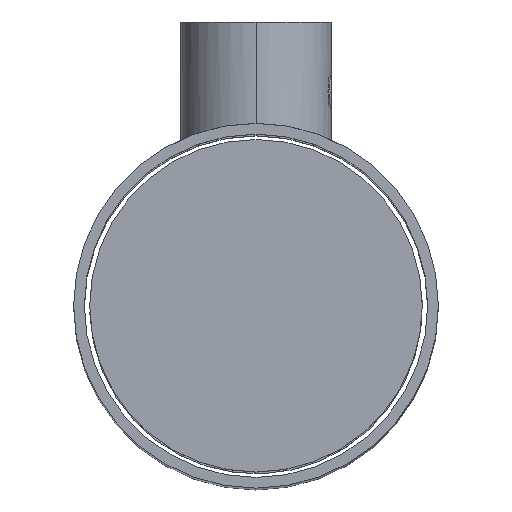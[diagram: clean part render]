
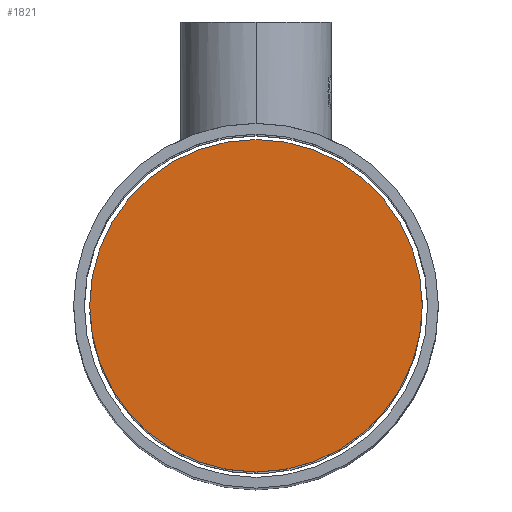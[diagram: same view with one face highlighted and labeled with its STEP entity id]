
A CAD part, top view. The second image highlights one B-rep face of the part: STEP entity #1821.
In plain terms, the highlighted planar face has unit normal (0, 0, 1).
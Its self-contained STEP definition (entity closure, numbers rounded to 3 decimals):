
#143 = CARTESIAN_POINT ( 'NONE',  ( 15.5, 0., 49.51 ) ) ;
#323 = ORIENTED_EDGE ( 'NONE', *, *, #1134, .T. ) ;
#486 = AXIS2_PLACEMENT_3D ( 'NONE', #1926, #2501, #2514 ) ;
#765 = PLANE ( 'NONE',  #486 ) ;
#791 = CARTESIAN_POINT ( 'NONE',  ( -15.5, 0., 49.51 ) ) ;
#881 = EDGE_LOOP ( 'NONE', ( #2309, #323 ) ) ;
#1134 = EDGE_CURVE ( 'NONE', #3296, #3477, #3036, .T. ) ;
#1350 = FACE_OUTER_BOUND ( 'NONE', #881, .T. ) ;
#1546 = DIRECTION ( 'NONE',  ( 0., 0., 1. ) ) ;
#1821 = ADVANCED_FACE ( 'NONE', ( #1350 ), #765, .T. ) ;
#1926 = CARTESIAN_POINT ( 'NONE',  ( 0., 0., 49.51 ) ) ;
#2066 = CARTESIAN_POINT ( 'NONE',  ( 0., 0., 49.51 ) ) ;
#2106 = AXIS2_PLACEMENT_3D ( 'NONE', #2066, #3183, #2850 ) ;
#2295 = CARTESIAN_POINT ( 'NONE',  ( 0., 0., 49.51 ) ) ;
#2309 = ORIENTED_EDGE ( 'NONE', *, *, #3239, .T. ) ;
#2473 = CIRCLE ( 'NONE', #2106, 15.5 ) ;
#2501 = DIRECTION ( 'NONE',  ( 0., 0., 1. ) ) ;
#2514 = DIRECTION ( 'NONE',  ( 1., 0., 0. ) ) ;
#2817 = AXIS2_PLACEMENT_3D ( 'NONE', #2295, #1546, #3406 ) ;
#2850 = DIRECTION ( 'NONE',  ( 1., 0., 0. ) ) ;
#3036 = CIRCLE ( 'NONE', #2817, 15.5 ) ;
#3183 = DIRECTION ( 'NONE',  ( 0., 0., 1. ) ) ;
#3239 = EDGE_CURVE ( 'NONE', #3477, #3296, #2473, .T. ) ;
#3296 = VERTEX_POINT ( 'NONE', #143 ) ;
#3406 = DIRECTION ( 'NONE',  ( 1., 0., 0. ) ) ;
#3477 = VERTEX_POINT ( 'NONE', #791 ) ;
